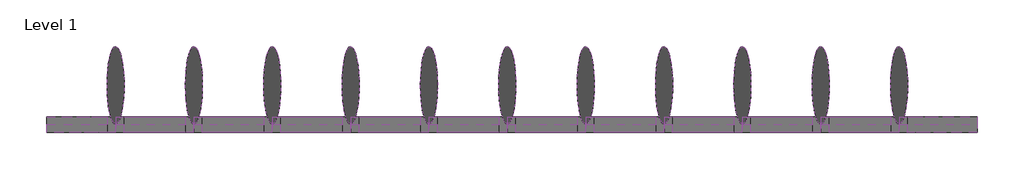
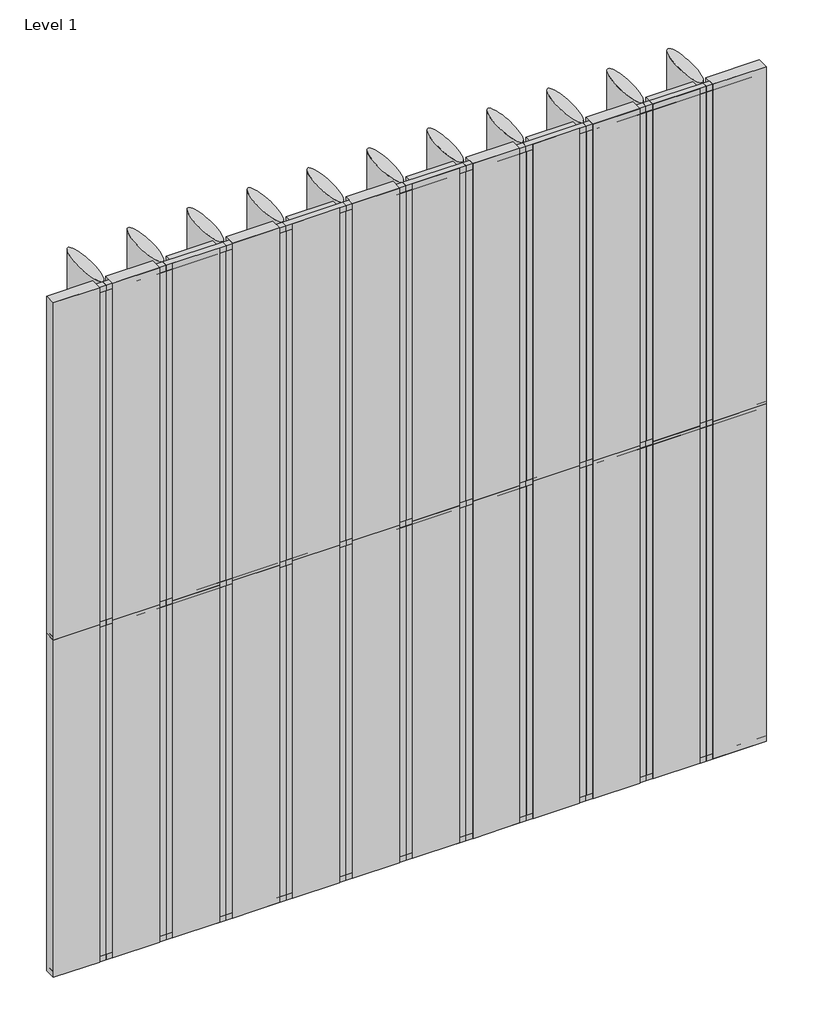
# One storey: 58 members, 48 plates.
"""IFC4 building model written with IfcOpenShell, lengths in millimetres."""

from ifc_helpers import new_model, si_unit, origin, place, context, project, spatial, transform, mapped, element, save
from components import rectangular_mullion_4d54ce13, rectangular_mullion_fc1c4b0a, rectangular_mullion_a2429558, rectangular_mullion_4e96f492, rectangular_mullion_058744f8, rectangular_mullion_f7ae43f3, rectangular_mullion_936fac8d, empty_system_panel_empty_f6668541, empty_system_panel_empty_c7db59ba, empty_system_panel_empty_c3984c60, empty_system_panel_empty_709fa1db, empty_system_panel_empty_4085ea94

model = new_model("IFC4")

# Units and contexts
model_context = context("Model", 3, world=origin())
ifc_project = project(units=[si_unit("LENGTHUNIT", "METRE", prefix="MILLI")], contexts=[model_context])

# Site, building, storey
site = spatial("IfcSite", under=ifc_project)
building = spatial("IfcBuilding", under=site)
storey = spatial("IfcBuildingStorey", under=building, Name="Level 1", Elevation=0.0)

# Members
placement = place(None, origin())
rectangular_mullion_shape = rectangular_mullion_4d54ce13(model_context)
element("IfcMember", 1, ObjectType="Rectangular Mullion : RSen_21_CWM_support profile 50x50 - left_gen_duco projects", at=placement, inside=storey, context=model_context, shape_type="MappedRepresentation", body=[
    mapped(rectangular_mullion_shape, transform((0.0, 3000.0, 6000.0), x_axis=(0.0, 0.0, 1.0), y_axis=(0.0, 1.0, 0.0), z_axis=(-1.0, 0.0, 0.0))),
])
rectangular_mullion_2_shape = rectangular_mullion_fc1c4b0a(model_context)
element("IfcMember", 2, ObjectType="Rectangular Mullion : RSen_21_CWM_support profile 50x50 - right_gen_duco projects", at=placement, inside=storey, context=model_context, shape_type="MappedRepresentation", body=[
    mapped(rectangular_mullion_2_shape, transform((6000.0, 3000.0, 0.0), x_axis=(0.0, 0.0, -1.0), y_axis=(0.0, 1.0, 0.0), z_axis=(1.0, 0.0, 0.0))),
])
rectangular_mullion_3_shape = rectangular_mullion_a2429558(model_context)
element("IfcMember", 3, ObjectType="Rectangular Mullion : RSen_21_CWM_support profile 50x50 - left_gen_duco projects", at=placement, inside=storey, context=model_context, shape_type="MappedRepresentation", body=[
    mapped(rectangular_mullion_3_shape, transform((5495.0, 3000.0, 6000.0), x_axis=(0.0, 0.0, 1.0), y_axis=(0.0, 1.0, 0.0), z_axis=(-1.0, 0.0, 0.0))),
])
element("IfcMember", 4, ObjectType="Rectangular Mullion : RSen_21_CWM_support profile 50x50 - left_gen_duco projects", at=placement, inside=storey, context=model_context, shape_type="MappedRepresentation", body=[
    mapped(rectangular_mullion_3_shape, transform((4990.0, 3000.0, 6000.0), x_axis=(0.0, 0.0, 1.0), y_axis=(0.0, 1.0, 0.0), z_axis=(-1.0, 0.0, 0.0))),
])
element("IfcMember", 5, ObjectType="Rectangular Mullion : RSen_21_CWM_support profile 50x50 - left_gen_duco projects", at=placement, inside=storey, context=model_context, shape_type="MappedRepresentation", body=[
    mapped(rectangular_mullion_3_shape, transform((4485.0, 3000.0, 6000.0), x_axis=(0.0, 0.0, 1.0), y_axis=(0.0, 1.0, 0.0), z_axis=(-1.0, 0.0, 0.0))),
])
element("IfcMember", 6, ObjectType="Rectangular Mullion : RSen_21_CWM_support profile 50x50 - left_gen_duco projects", at=placement, inside=storey, context=model_context, shape_type="MappedRepresentation", body=[
    mapped(rectangular_mullion_3_shape, transform((3980.0, 3000.0, 6000.0), x_axis=(0.0, 0.0, 1.0), y_axis=(0.0, 1.0, 0.0), z_axis=(-1.0, 0.0, 0.0))),
])
element("IfcMember", 7, ObjectType="Rectangular Mullion : RSen_21_CWM_support profile 50x50 - left_gen_duco projects", at=placement, inside=storey, context=model_context, shape_type="MappedRepresentation", body=[
    mapped(rectangular_mullion_3_shape, transform((3475.0, 3000.0, 6000.0), x_axis=(0.0, 0.0, 1.0), y_axis=(0.0, 1.0, 0.0), z_axis=(-1.0, 0.0, 0.0))),
])
element("IfcMember", 8, ObjectType="Rectangular Mullion : RSen_21_CWM_support profile 50x50 - left_gen_duco projects", at=placement, inside=storey, context=model_context, shape_type="MappedRepresentation", body=[
    mapped(rectangular_mullion_3_shape, transform((2970.0, 3000.0, 6000.0), x_axis=(0.0, 0.0, 1.0), y_axis=(0.0, 1.0, 0.0), z_axis=(-1.0, 0.0, 0.0))),
])
element("IfcMember", 9, ObjectType="Rectangular Mullion : RSen_21_CWM_support profile 50x50 - left_gen_duco projects", at=placement, inside=storey, context=model_context, shape_type="MappedRepresentation", body=[
    mapped(rectangular_mullion_3_shape, transform((2465.0, 3000.0, 6000.0), x_axis=(0.0, 0.0, 1.0), y_axis=(0.0, 1.0, 0.0), z_axis=(-1.0, 0.0, 0.0))),
])
element("IfcMember", 10, ObjectType="Rectangular Mullion : RSen_21_CWM_support profile 50x50 - left_gen_duco projects", at=placement, inside=storey, context=model_context, shape_type="MappedRepresentation", body=[
    mapped(rectangular_mullion_3_shape, transform((1960.0, 3000.0, 6000.0), x_axis=(0.0, 0.0, 1.0), y_axis=(0.0, 1.0, 0.0), z_axis=(-1.0, 0.0, 0.0))),
])
element("IfcMember", 11, ObjectType="Rectangular Mullion : RSen_21_CWM_support profile 50x50 - left_gen_duco projects", at=placement, inside=storey, context=model_context, shape_type="MappedRepresentation", body=[
    mapped(rectangular_mullion_3_shape, transform((1455.0, 3000.0, 6000.0), x_axis=(0.0, 0.0, 1.0), y_axis=(0.0, 1.0, 0.0), z_axis=(-1.0, 0.0, 0.0))),
])
element("IfcMember", 12, ObjectType="Rectangular Mullion : RSen_21_CWM_support profile 50x50 - left_gen_duco projects", at=placement, inside=storey, context=model_context, shape_type="MappedRepresentation", body=[
    mapped(rectangular_mullion_3_shape, transform((950.0, 3000.0, 6000.0), x_axis=(0.0, 0.0, 1.0), y_axis=(0.0, 1.0, 0.0), z_axis=(-1.0, 0.0, 0.0))),
])
element("IfcMember", 13, ObjectType="Rectangular Mullion : RSen_21_CWM_support profile 50x50 - left_gen_duco projects", at=placement, inside=storey, context=model_context, shape_type="MappedRepresentation", body=[
    mapped(rectangular_mullion_3_shape, transform((445.0, 3000.0, 6000.0), x_axis=(0.0, 0.0, 1.0), y_axis=(0.0, 1.0, 0.0), z_axis=(-1.0, 0.0, 0.0))),
])
element("IfcMember", 14, ObjectType="Rectangular Mullion : RSen_21_CWM_support profile 50x50 - right_gen_duco projects", at=placement, inside=storey, context=model_context, shape_type="MappedRepresentation", body=[
    mapped(rectangular_mullion_2_shape, transform((5495.0, 3000.0, 0.0), x_axis=(0.0, 0.0, -1.0), y_axis=(0.0, 1.0, 0.0), z_axis=(1.0, 0.0, 0.0))),
])
element("IfcMember", 15, ObjectType="Rectangular Mullion : RSen_21_CWM_support profile 50x50 - right_gen_duco projects", at=placement, inside=storey, context=model_context, shape_type="MappedRepresentation", body=[
    mapped(rectangular_mullion_2_shape, transform((4990.0, 3000.0, 0.0), x_axis=(0.0, 0.0, -1.0), y_axis=(0.0, 1.0, 0.0), z_axis=(1.0, 0.0, 0.0))),
])
element("IfcMember", 16, ObjectType="Rectangular Mullion : RSen_21_CWM_support profile 50x50 - right_gen_duco projects", at=placement, inside=storey, context=model_context, shape_type="MappedRepresentation", body=[
    mapped(rectangular_mullion_2_shape, transform((4485.0, 3000.0, 0.0), x_axis=(0.0, 0.0, -1.0), y_axis=(0.0, 1.0, 0.0), z_axis=(1.0, 0.0, 0.0))),
])
element("IfcMember", 17, ObjectType="Rectangular Mullion : RSen_21_CWM_support profile 50x50 - right_gen_duco projects", at=placement, inside=storey, context=model_context, shape_type="MappedRepresentation", body=[
    mapped(rectangular_mullion_2_shape, transform((3980.0, 3000.0, 0.0), x_axis=(0.0, 0.0, -1.0), y_axis=(0.0, 1.0, 0.0), z_axis=(1.0, 0.0, 0.0))),
])
element("IfcMember", 18, ObjectType="Rectangular Mullion : RSen_21_CWM_support profile 50x50 - right_gen_duco projects", at=placement, inside=storey, context=model_context, shape_type="MappedRepresentation", body=[
    mapped(rectangular_mullion_2_shape, transform((3475.0, 3000.0, 0.0), x_axis=(0.0, 0.0, -1.0), y_axis=(0.0, 1.0, 0.0), z_axis=(1.0, 0.0, 0.0))),
])
element("IfcMember", 19, ObjectType="Rectangular Mullion : RSen_21_CWM_support profile 50x50 - right_gen_duco projects", at=placement, inside=storey, context=model_context, shape_type="MappedRepresentation", body=[
    mapped(rectangular_mullion_2_shape, transform((2970.0, 3000.0, 0.0), x_axis=(0.0, 0.0, -1.0), y_axis=(0.0, 1.0, 0.0), z_axis=(1.0, 0.0, 0.0))),
])
element("IfcMember", 20, ObjectType="Rectangular Mullion : RSen_21_CWM_support profile 50x50 - right_gen_duco projects", at=placement, inside=storey, context=model_context, shape_type="MappedRepresentation", body=[
    mapped(rectangular_mullion_2_shape, transform((2465.0, 3000.0, 0.0), x_axis=(0.0, 0.0, -1.0), y_axis=(0.0, 1.0, 0.0), z_axis=(1.0, 0.0, 0.0))),
])
element("IfcMember", 21, ObjectType="Rectangular Mullion : RSen_21_CWM_support profile 50x50 - right_gen_duco projects", at=placement, inside=storey, context=model_context, shape_type="MappedRepresentation", body=[
    mapped(rectangular_mullion_2_shape, transform((1960.0, 3000.0, 0.0), x_axis=(0.0, 0.0, -1.0), y_axis=(0.0, 1.0, 0.0), z_axis=(1.0, 0.0, 0.0))),
])
element("IfcMember", 22, ObjectType="Rectangular Mullion : RSen_21_CWM_support profile 50x50 - right_gen_duco projects", at=placement, inside=storey, context=model_context, shape_type="MappedRepresentation", body=[
    mapped(rectangular_mullion_2_shape, transform((1455.0, 3000.0, 0.0), x_axis=(0.0, 0.0, -1.0), y_axis=(0.0, 1.0, 0.0), z_axis=(1.0, 0.0, 0.0))),
])
element("IfcMember", 23, ObjectType="Rectangular Mullion : RSen_21_CWM_support profile 50x50 - right_gen_duco projects", at=placement, inside=storey, context=model_context, shape_type="MappedRepresentation", body=[
    mapped(rectangular_mullion_2_shape, transform((950.0, 3000.0, 0.0), x_axis=(0.0, 0.0, -1.0), y_axis=(0.0, 1.0, 0.0), z_axis=(1.0, 0.0, 0.0))),
])
rectangular_mullion_4_shape = rectangular_mullion_4e96f492(model_context)
element("IfcMember", 24, ObjectType="Rectangular Mullion : RSen_21_CWM_support profile 50x50 - right_gen_duco projects", at=placement, inside=storey, context=model_context, shape_type="MappedRepresentation", body=[
    mapped(rectangular_mullion_4_shape, transform((445.0, 3000.0, 0.0), x_axis=(0.0, 0.0, -1.0), y_axis=(0.0, 1.0, 0.0), z_axis=(1.0, 0.0, 0.0))),
])
rectangular_mullion_5_shape = rectangular_mullion_058744f8(model_context)
element("IfcMember", 25, ObjectType="Rectangular Mullion : RSen_21_CWM_support profile 50x50_gen_duco projects", at=placement, inside=storey, context=model_context, shape_type="MappedRepresentation", body=[
    mapped(rectangular_mullion_5_shape, transform((5495.0, 3000.0, 3000.0), x_axis=(0.0, 0.0, 1.0), y_axis=(0.0, 1.0, 0.0), z_axis=(-1.0, 0.0, 0.0))),
])
element("IfcMember", 26, ObjectType="Rectangular Mullion : RSen_21_CWM_support profile 50x50_gen_duco projects", at=placement, inside=storey, context=model_context, shape_type="MappedRepresentation", body=[
    mapped(rectangular_mullion_5_shape, transform((4990.0, 3000.0, 3000.0), x_axis=(0.0, 0.0, 1.0), y_axis=(0.0, 1.0, 0.0), z_axis=(-1.0, 0.0, 0.0))),
])
element("IfcMember", 27, ObjectType="Rectangular Mullion : RSen_21_CWM_support profile 50x50_gen_duco projects", at=placement, inside=storey, context=model_context, shape_type="MappedRepresentation", body=[
    mapped(rectangular_mullion_5_shape, transform((4485.0, 3000.0, 3000.0), x_axis=(0.0, 0.0, 1.0), y_axis=(0.0, 1.0, 0.0), z_axis=(-1.0, 0.0, 0.0))),
])
element("IfcMember", 28, ObjectType="Rectangular Mullion : RSen_21_CWM_support profile 50x50_gen_duco projects", at=placement, inside=storey, context=model_context, shape_type="MappedRepresentation", body=[
    mapped(rectangular_mullion_5_shape, transform((3980.0, 3000.0, 3000.0), x_axis=(0.0, 0.0, 1.0), y_axis=(0.0, 1.0, 0.0), z_axis=(-1.0, 0.0, 0.0))),
])
element("IfcMember", 29, ObjectType="Rectangular Mullion : RSen_21_CWM_support profile 50x50_gen_duco projects", at=placement, inside=storey, context=model_context, shape_type="MappedRepresentation", body=[
    mapped(rectangular_mullion_5_shape, transform((3475.0, 3000.0, 3000.0), x_axis=(0.0, 0.0, 1.0), y_axis=(0.0, 1.0, 0.0), z_axis=(-1.0, 0.0, 0.0))),
])
element("IfcMember", 30, ObjectType="Rectangular Mullion : RSen_21_CWM_support profile 50x50_gen_duco projects", at=placement, inside=storey, context=model_context, shape_type="MappedRepresentation", body=[
    mapped(rectangular_mullion_5_shape, transform((2970.0, 3000.0, 3000.0), x_axis=(0.0, 0.0, 1.0), y_axis=(0.0, 1.0, 0.0), z_axis=(-1.0, 0.0, 0.0))),
])
element("IfcMember", 31, ObjectType="Rectangular Mullion : RSen_21_CWM_support profile 50x50_gen_duco projects", at=placement, inside=storey, context=model_context, shape_type="MappedRepresentation", body=[
    mapped(rectangular_mullion_5_shape, transform((2465.0, 3000.0, 3000.0), x_axis=(0.0, 0.0, 1.0), y_axis=(0.0, 1.0, 0.0), z_axis=(-1.0, 0.0, 0.0))),
])
element("IfcMember", 32, ObjectType="Rectangular Mullion : RSen_21_CWM_support profile 50x50_gen_duco projects", at=placement, inside=storey, context=model_context, shape_type="MappedRepresentation", body=[
    mapped(rectangular_mullion_5_shape, transform((1960.0, 3000.0, 3000.0), x_axis=(0.0, 0.0, 1.0), y_axis=(0.0, 1.0, 0.0), z_axis=(-1.0, 0.0, 0.0))),
])
element("IfcMember", 33, ObjectType="Rectangular Mullion : RSen_21_CWM_support profile 50x50_gen_duco projects", at=placement, inside=storey, context=model_context, shape_type="MappedRepresentation", body=[
    mapped(rectangular_mullion_5_shape, transform((1455.0, 3000.0, 3000.0), x_axis=(0.0, 0.0, 1.0), y_axis=(0.0, 1.0, 0.0), z_axis=(-1.0, 0.0, 0.0))),
])
element("IfcMember", 34, ObjectType="Rectangular Mullion : RSen_21_CWM_support profile 50x50_gen_duco projects", at=placement, inside=storey, context=model_context, shape_type="MappedRepresentation", body=[
    mapped(rectangular_mullion_5_shape, transform((950.0, 3000.0, 3000.0), x_axis=(0.0, 0.0, 1.0), y_axis=(0.0, 1.0, 0.0), z_axis=(-1.0, 0.0, 0.0))),
])
element("IfcMember", 35, ObjectType="Rectangular Mullion : RSen_21_CWM_support profile 50x50_gen_duco projects", at=placement, inside=storey, context=model_context, shape_type="MappedRepresentation", body=[
    mapped(rectangular_mullion_5_shape, transform((445.0, 3000.0, 3000.0), x_axis=(0.0, 0.0, 1.0), y_axis=(0.0, 1.0, 0.0), z_axis=(-1.0, 0.0, 0.0))),
])
rectangular_mullion_6_shape = rectangular_mullion_f7ae43f3(model_context)
element("IfcMember", 36, ObjectType="Rectangular Mullion : RSen_21_CWM_support profile 50x50_gen_duco projects", at=placement, inside=storey, context=model_context, shape_type="MappedRepresentation", body=[
    mapped(rectangular_mullion_6_shape, transform((0.0, 3000.0, 3000.0), x_axis=(0.0, 0.0, 1.0), y_axis=(0.0, 1.0, 0.0), z_axis=(-1.0, 0.0, 0.0))),
])
rectangular_mullion_7_shape = rectangular_mullion_936fac8d(model_context)
element("IfcMember", 37, ObjectType="Rectangular Mullion : RSen_21_CWM_blade - wing 500 - 0° perforated_gen_duco projects", at=placement, inside=storey, context=model_context, shape_type="MappedRepresentation", body=[
    mapped(rectangular_mullion_7_shape, transform((5495.0, 3000.0, 0.0), x_axis=(-1.0, 0.0, 0.0), y_axis=(0.0, 1.0, 0.0), z_axis=(0.0, 0.0, -1.0))),
])
element("IfcMember", 38, ObjectType="Rectangular Mullion : RSen_21_CWM_blade - wing 500 - 0° perforated_gen_duco projects", at=placement, inside=storey, context=model_context, shape_type="MappedRepresentation", body=[
    mapped(rectangular_mullion_7_shape, transform((4990.0, 3000.0, 0.0), x_axis=(-1.0, 0.0, 0.0), y_axis=(0.0, 1.0, 0.0), z_axis=(0.0, 0.0, -1.0))),
])
element("IfcMember", 39, ObjectType="Rectangular Mullion : RSen_21_CWM_blade - wing 500 - 0° perforated_gen_duco projects", at=placement, inside=storey, context=model_context, shape_type="MappedRepresentation", body=[
    mapped(rectangular_mullion_7_shape, transform((4485.0, 3000.0, 0.0), x_axis=(-1.0, 0.0, 0.0), y_axis=(0.0, 1.0, 0.0), z_axis=(0.0, 0.0, -1.0))),
])
element("IfcMember", 40, ObjectType="Rectangular Mullion : RSen_21_CWM_blade - wing 500 - 0° perforated_gen_duco projects", at=placement, inside=storey, context=model_context, shape_type="MappedRepresentation", body=[
    mapped(rectangular_mullion_7_shape, transform((3980.0, 3000.0, 0.0), x_axis=(-1.0, 0.0, 0.0), y_axis=(0.0, 1.0, 0.0), z_axis=(0.0, 0.0, -1.0))),
])
element("IfcMember", 41, ObjectType="Rectangular Mullion : RSen_21_CWM_blade - wing 500 - 0° perforated_gen_duco projects", at=placement, inside=storey, context=model_context, shape_type="MappedRepresentation", body=[
    mapped(rectangular_mullion_7_shape, transform((3475.0, 3000.0, 0.0), x_axis=(-1.0, 0.0, 0.0), y_axis=(0.0, 1.0, 0.0), z_axis=(0.0, 0.0, -1.0))),
])
element("IfcMember", 42, ObjectType="Rectangular Mullion : RSen_21_CWM_blade - wing 500 - 0° perforated_gen_duco projects", at=placement, inside=storey, context=model_context, shape_type="MappedRepresentation", body=[
    mapped(rectangular_mullion_7_shape, transform((2970.0, 3000.0, 0.0), x_axis=(-1.0, 0.0, 0.0), y_axis=(0.0, 1.0, 0.0), z_axis=(0.0, 0.0, -1.0))),
])
element("IfcMember", 43, ObjectType="Rectangular Mullion : RSen_21_CWM_blade - wing 500 - 0° perforated_gen_duco projects", at=placement, inside=storey, context=model_context, shape_type="MappedRepresentation", body=[
    mapped(rectangular_mullion_7_shape, transform((2465.0, 3000.0, 0.0), x_axis=(-1.0, 0.0, 0.0), y_axis=(0.0, 1.0, 0.0), z_axis=(0.0, 0.0, -1.0))),
])
element("IfcMember", 44, ObjectType="Rectangular Mullion : RSen_21_CWM_blade - wing 500 - 0° perforated_gen_duco projects", at=placement, inside=storey, context=model_context, shape_type="MappedRepresentation", body=[
    mapped(rectangular_mullion_7_shape, transform((1960.0, 3000.0, 0.0), x_axis=(-1.0, 0.0, 0.0), y_axis=(0.0, 1.0, 0.0), z_axis=(0.0, 0.0, -1.0))),
])
element("IfcMember", 45, ObjectType="Rectangular Mullion : RSen_21_CWM_blade - wing 500 - 0° perforated_gen_duco projects", at=placement, inside=storey, context=model_context, shape_type="MappedRepresentation", body=[
    mapped(rectangular_mullion_7_shape, transform((1455.0, 3000.0, 0.0), x_axis=(-1.0, 0.0, 0.0), y_axis=(0.0, 1.0, 0.0), z_axis=(0.0, 0.0, -1.0))),
])
element("IfcMember", 46, ObjectType="Rectangular Mullion : RSen_21_CWM_blade - wing 500 - 0° perforated_gen_duco projects", at=placement, inside=storey, context=model_context, shape_type="MappedRepresentation", body=[
    mapped(rectangular_mullion_7_shape, transform((950.0, 3000.0, 0.0), x_axis=(-1.0, 0.0, 0.0), y_axis=(0.0, 1.0, 0.0), z_axis=(0.0, 0.0, -1.0))),
])
element("IfcMember", 47, ObjectType="Rectangular Mullion : RSen_21_CWM_blade - wing 500 - 0° perforated_gen_duco projects", at=placement, inside=storey, context=model_context, shape_type="MappedRepresentation", body=[
    mapped(rectangular_mullion_7_shape, transform((445.0, 3000.0, 0.0), x_axis=(-1.0, 0.0, 0.0), y_axis=(0.0, 1.0, 0.0), z_axis=(0.0, 0.0, -1.0))),
])
element("IfcMember", 48, ObjectType="Rectangular Mullion : RSen_21_CWM_blade - wing 500 - 0° perforated_gen_duco projects", at=placement, inside=storey, context=model_context, shape_type="MappedRepresentation", body=[
    mapped(rectangular_mullion_7_shape, transform((5495.0, 3000.0, 3000.0), x_axis=(-1.0, 0.0, 0.0), y_axis=(0.0, 1.0, 0.0), z_axis=(0.0, 0.0, -1.0))),
])
element("IfcMember", 49, ObjectType="Rectangular Mullion : RSen_21_CWM_blade - wing 500 - 0° perforated_gen_duco projects", at=placement, inside=storey, context=model_context, shape_type="MappedRepresentation", body=[
    mapped(rectangular_mullion_7_shape, transform((4990.0, 3000.0, 3000.0), x_axis=(-1.0, 0.0, 0.0), y_axis=(0.0, 1.0, 0.0), z_axis=(0.0, 0.0, -1.0))),
])
element("IfcMember", 50, ObjectType="Rectangular Mullion : RSen_21_CWM_blade - wing 500 - 0° perforated_gen_duco projects", at=placement, inside=storey, context=model_context, shape_type="MappedRepresentation", body=[
    mapped(rectangular_mullion_7_shape, transform((4485.0, 3000.0, 3000.0), x_axis=(-1.0, 0.0, 0.0), y_axis=(0.0, 1.0, 0.0), z_axis=(0.0, 0.0, -1.0))),
])
element("IfcMember", 51, ObjectType="Rectangular Mullion : RSen_21_CWM_blade - wing 500 - 0° perforated_gen_duco projects", at=placement, inside=storey, context=model_context, shape_type="MappedRepresentation", body=[
    mapped(rectangular_mullion_7_shape, transform((3980.0, 3000.0, 3000.0), x_axis=(-1.0, 0.0, 0.0), y_axis=(0.0, 1.0, 0.0), z_axis=(0.0, 0.0, -1.0))),
])
element("IfcMember", 52, ObjectType="Rectangular Mullion : RSen_21_CWM_blade - wing 500 - 0° perforated_gen_duco projects", at=placement, inside=storey, context=model_context, shape_type="MappedRepresentation", body=[
    mapped(rectangular_mullion_7_shape, transform((3475.0, 3000.0, 3000.0), x_axis=(-1.0, 0.0, 0.0), y_axis=(0.0, 1.0, 0.0), z_axis=(0.0, 0.0, -1.0))),
])
element("IfcMember", 53, ObjectType="Rectangular Mullion : RSen_21_CWM_blade - wing 500 - 0° perforated_gen_duco projects", at=placement, inside=storey, context=model_context, shape_type="MappedRepresentation", body=[
    mapped(rectangular_mullion_7_shape, transform((2970.0, 3000.0, 3000.0), x_axis=(-1.0, 0.0, 0.0), y_axis=(0.0, 1.0, 0.0), z_axis=(0.0, 0.0, -1.0))),
])
element("IfcMember", 54, ObjectType="Rectangular Mullion : RSen_21_CWM_blade - wing 500 - 0° perforated_gen_duco projects", at=placement, inside=storey, context=model_context, shape_type="MappedRepresentation", body=[
    mapped(rectangular_mullion_7_shape, transform((2465.0, 3000.0, 3000.0), x_axis=(-1.0, 0.0, 0.0), y_axis=(0.0, 1.0, 0.0), z_axis=(0.0, 0.0, -1.0))),
])
element("IfcMember", 55, ObjectType="Rectangular Mullion : RSen_21_CWM_blade - wing 500 - 0° perforated_gen_duco projects", at=placement, inside=storey, context=model_context, shape_type="MappedRepresentation", body=[
    mapped(rectangular_mullion_7_shape, transform((1960.0, 3000.0, 3000.0), x_axis=(-1.0, 0.0, 0.0), y_axis=(0.0, 1.0, 0.0), z_axis=(0.0, 0.0, -1.0))),
])
element("IfcMember", 56, ObjectType="Rectangular Mullion : RSen_21_CWM_blade - wing 500 - 0° perforated_gen_duco projects", at=placement, inside=storey, context=model_context, shape_type="MappedRepresentation", body=[
    mapped(rectangular_mullion_7_shape, transform((1455.0, 3000.0, 3000.0), x_axis=(-1.0, 0.0, 0.0), y_axis=(0.0, 1.0, 0.0), z_axis=(0.0, 0.0, -1.0))),
])
element("IfcMember", 57, ObjectType="Rectangular Mullion : RSen_21_CWM_blade - wing 500 - 0° perforated_gen_duco projects", at=placement, inside=storey, context=model_context, shape_type="MappedRepresentation", body=[
    mapped(rectangular_mullion_7_shape, transform((950.0, 3000.0, 3000.0), x_axis=(-1.0, 0.0, 0.0), y_axis=(0.0, 1.0, 0.0), z_axis=(0.0, 0.0, -1.0))),
])
element("IfcMember", 58, ObjectType="Rectangular Mullion : RSen_21_CWM_blade - wing 500 - 0° perforated_gen_duco projects", at=placement, inside=storey, context=model_context, shape_type="MappedRepresentation", body=[
    mapped(rectangular_mullion_7_shape, transform((445.0, 3000.0, 3000.0), x_axis=(-1.0, 0.0, 0.0), y_axis=(0.0, 1.0, 0.0), z_axis=(0.0, 0.0, -1.0))),
])

# Plates
empty_system_panel_empty_shape = empty_system_panel_empty_f6668541(model_context)
element("IfcPlate", 59, ObjectType="Empty System Panel : Empty", at=placement, inside=storey, context=model_context, shape_type="MappedRepresentation", body=[
    mapped(empty_system_panel_empty_shape, transform((5747.5, 3000.0, 50.0), x_axis=(-1.0, 0.0, 0.0), y_axis=(0.0, -1.0, 0.0), z_axis=(0.0, 0.0, 1.0))),
])
element("IfcPlate", 60, ObjectType="Empty System Panel : Empty", at=placement, inside=storey, context=model_context, shape_type="MappedRepresentation", body=[
    mapped(empty_system_panel_empty_shape, transform((5242.5, 3000.0, 50.0), x_axis=(-1.0, 0.0, 0.0), y_axis=(0.0, -1.0, 0.0), z_axis=(0.0, 0.0, 1.0))),
])
element("IfcPlate", 61, ObjectType="Empty System Panel : Empty", at=placement, inside=storey, context=model_context, shape_type="MappedRepresentation", body=[
    mapped(empty_system_panel_empty_shape, transform((4737.5, 3000.0, 50.0), x_axis=(-1.0, 0.0, 0.0), y_axis=(0.0, -1.0, 0.0), z_axis=(0.0, 0.0, 1.0))),
])
element("IfcPlate", 62, ObjectType="Empty System Panel : Empty", at=placement, inside=storey, context=model_context, shape_type="MappedRepresentation", body=[
    mapped(empty_system_panel_empty_shape, transform((4232.5, 3000.0, 50.0), x_axis=(-1.0, 0.0, 0.0), y_axis=(0.0, -1.0, 0.0), z_axis=(0.0, 0.0, 1.0))),
])
element("IfcPlate", 63, ObjectType="Empty System Panel : Empty", at=placement, inside=storey, context=model_context, shape_type="MappedRepresentation", body=[
    mapped(empty_system_panel_empty_shape, transform((3727.5, 3000.0, 50.0), x_axis=(-1.0, 0.0, 0.0), y_axis=(0.0, -1.0, 0.0), z_axis=(0.0, 0.0, 1.0))),
])
element("IfcPlate", 64, ObjectType="Empty System Panel : Empty", at=placement, inside=storey, context=model_context, shape_type="MappedRepresentation", body=[
    mapped(empty_system_panel_empty_shape, transform((3222.5, 3000.0, 50.0), x_axis=(-1.0, 0.0, 0.0), y_axis=(0.0, -1.0, 0.0), z_axis=(0.0, 0.0, 1.0))),
])
element("IfcPlate", 65, ObjectType="Empty System Panel : Empty", at=placement, inside=storey, context=model_context, shape_type="MappedRepresentation", body=[
    mapped(empty_system_panel_empty_shape, transform((2717.5, 3000.0, 50.0), x_axis=(-1.0, 0.0, 0.0), y_axis=(0.0, -1.0, 0.0), z_axis=(0.0, 0.0, 1.0))),
])
element("IfcPlate", 66, ObjectType="Empty System Panel : Empty", at=placement, inside=storey, context=model_context, shape_type="MappedRepresentation", body=[
    mapped(empty_system_panel_empty_shape, transform((2212.5, 3000.0, 50.0), x_axis=(-1.0, 0.0, 0.0), y_axis=(0.0, -1.0, 0.0), z_axis=(0.0, 0.0, 1.0))),
])
element("IfcPlate", 67, ObjectType="Empty System Panel : Empty", at=placement, inside=storey, context=model_context, shape_type="MappedRepresentation", body=[
    mapped(empty_system_panel_empty_shape, transform((1707.5, 3000.0, 50.0), x_axis=(-1.0, 0.0, 0.0), y_axis=(0.0, -1.0, 0.0), z_axis=(0.0, 0.0, 1.0))),
])
element("IfcPlate", 68, ObjectType="Empty System Panel : Empty", at=placement, inside=storey, context=model_context, shape_type="MappedRepresentation", body=[
    mapped(empty_system_panel_empty_shape, transform((1202.5, 3000.0, 50.0), x_axis=(-1.0, 0.0, 0.0), y_axis=(0.0, -1.0, 0.0), z_axis=(0.0, 0.0, 1.0))),
])
element("IfcPlate", 69, ObjectType="Empty System Panel : Empty", at=placement, inside=storey, context=model_context, shape_type="MappedRepresentation", body=[
    mapped(empty_system_panel_empty_shape, transform((697.5, 3000.0, 50.0), x_axis=(-1.0, 0.0, 0.0), y_axis=(0.0, -1.0, 0.0), z_axis=(0.0, 0.0, 1.0))),
])
element("IfcPlate", 70, ObjectType="Empty System Panel : Empty", at=placement, inside=storey, context=model_context, shape_type="MappedRepresentation", body=[
    mapped(empty_system_panel_empty_shape, transform((5747.5, 3000.0, 3025.0), x_axis=(-1.0, 0.0, 0.0), y_axis=(0.0, -1.0, 0.0), z_axis=(0.0, 0.0, 1.0))),
])
element("IfcPlate", 71, ObjectType="Empty System Panel : Empty", at=placement, inside=storey, context=model_context, shape_type="MappedRepresentation", body=[
    mapped(empty_system_panel_empty_shape, transform((5242.5, 3000.0, 3025.0), x_axis=(-1.0, 0.0, 0.0), y_axis=(0.0, -1.0, 0.0), z_axis=(0.0, 0.0, 1.0))),
])
element("IfcPlate", 72, ObjectType="Empty System Panel : Empty", at=placement, inside=storey, context=model_context, shape_type="MappedRepresentation", body=[
    mapped(empty_system_panel_empty_shape, transform((4737.5, 3000.0, 3025.0), x_axis=(-1.0, 0.0, 0.0), y_axis=(0.0, -1.0, 0.0), z_axis=(0.0, 0.0, 1.0))),
])
element("IfcPlate", 73, ObjectType="Empty System Panel : Empty", at=placement, inside=storey, context=model_context, shape_type="MappedRepresentation", body=[
    mapped(empty_system_panel_empty_shape, transform((4232.5, 3000.0, 3025.0), x_axis=(-1.0, 0.0, 0.0), y_axis=(0.0, -1.0, 0.0), z_axis=(0.0, 0.0, 1.0))),
])
element("IfcPlate", 74, ObjectType="Empty System Panel : Empty", at=placement, inside=storey, context=model_context, shape_type="MappedRepresentation", body=[
    mapped(empty_system_panel_empty_shape, transform((3727.5, 3000.0, 3025.0), x_axis=(-1.0, 0.0, 0.0), y_axis=(0.0, -1.0, 0.0), z_axis=(0.0, 0.0, 1.0))),
])
element("IfcPlate", 75, ObjectType="Empty System Panel : Empty", at=placement, inside=storey, context=model_context, shape_type="MappedRepresentation", body=[
    mapped(empty_system_panel_empty_shape, transform((3222.5, 3000.0, 3025.0), x_axis=(-1.0, 0.0, 0.0), y_axis=(0.0, -1.0, 0.0), z_axis=(0.0, 0.0, 1.0))),
])
element("IfcPlate", 76, ObjectType="Empty System Panel : Empty", at=placement, inside=storey, context=model_context, shape_type="MappedRepresentation", body=[
    mapped(empty_system_panel_empty_shape, transform((2717.5, 3000.0, 3025.0), x_axis=(-1.0, 0.0, 0.0), y_axis=(0.0, -1.0, 0.0), z_axis=(0.0, 0.0, 1.0))),
])
element("IfcPlate", 77, ObjectType="Empty System Panel : Empty", at=placement, inside=storey, context=model_context, shape_type="MappedRepresentation", body=[
    mapped(empty_system_panel_empty_shape, transform((2212.5, 3000.0, 3025.0), x_axis=(-1.0, 0.0, 0.0), y_axis=(0.0, -1.0, 0.0), z_axis=(0.0, 0.0, 1.0))),
])
element("IfcPlate", 78, ObjectType="Empty System Panel : Empty", at=placement, inside=storey, context=model_context, shape_type="MappedRepresentation", body=[
    mapped(empty_system_panel_empty_shape, transform((1707.5, 3000.0, 3025.0), x_axis=(-1.0, 0.0, 0.0), y_axis=(0.0, -1.0, 0.0), z_axis=(0.0, 0.0, 1.0))),
])
element("IfcPlate", 79, ObjectType="Empty System Panel : Empty", at=placement, inside=storey, context=model_context, shape_type="MappedRepresentation", body=[
    mapped(empty_system_panel_empty_shape, transform((1202.5, 3000.0, 3025.0), x_axis=(-1.0, 0.0, 0.0), y_axis=(0.0, -1.0, 0.0), z_axis=(0.0, 0.0, 1.0))),
])
element("IfcPlate", 80, ObjectType="Empty System Panel : Empty", at=placement, inside=storey, context=model_context, shape_type="MappedRepresentation", body=[
    mapped(empty_system_panel_empty_shape, transform((697.5, 3000.0, 3025.0), x_axis=(-1.0, 0.0, 0.0), y_axis=(0.0, -1.0, 0.0), z_axis=(0.0, 0.0, 1.0))),
])
empty_system_panel_empty_2_shape = empty_system_panel_empty_c7db59ba(model_context)
element("IfcPlate", 81, ObjectType="Empty System Panel : Empty", at=placement, inside=storey, context=model_context, shape_type="MappedRepresentation", body=[
    mapped(empty_system_panel_empty_2_shape, transform((222.5, 3000.0, 50.0), x_axis=(-1.0, 0.0, 0.0), y_axis=(0.0, -1.0, 0.0), z_axis=(0.0, 0.0, 1.0))),
])
element("IfcPlate", 82, ObjectType="Empty System Panel : Empty", at=placement, inside=storey, context=model_context, shape_type="MappedRepresentation", body=[
    mapped(empty_system_panel_empty_2_shape, transform((222.5, 3000.0, 3025.0), x_axis=(-1.0, 0.0, 0.0), y_axis=(0.0, -1.0, 0.0), z_axis=(0.0, 0.0, 1.0))),
])
empty_system_panel_empty_3_shape = empty_system_panel_empty_c3984c60(model_context)
element("IfcPlate", 83, ObjectType="Empty System Panel : Empty", at=placement, inside=storey, context=model_context, shape_type="MappedRepresentation", body=[
    mapped(empty_system_panel_empty_3_shape, transform((5775.0, 3000.0, 0.0), x_axis=(-1.0, 0.0, 0.0), y_axis=(0.0, -1.0, 0.0), z_axis=(0.0, 0.0, 1.0))),
])
element("IfcPlate", 84, ObjectType="Empty System Panel : Empty", at=placement, inside=storey, context=model_context, shape_type="MappedRepresentation", body=[
    mapped(empty_system_panel_empty_3_shape, transform((5775.0, 3000.0, 3000.0), x_axis=(-1.0, 0.0, 0.0), y_axis=(0.0, -1.0, 0.0), z_axis=(0.0, 0.0, 1.0))),
])
empty_system_panel_empty_4_shape = empty_system_panel_empty_709fa1db(model_context)
element("IfcPlate", 85, ObjectType="Empty System Panel : Empty", at=placement, inside=storey, context=model_context, shape_type="MappedRepresentation", body=[
    mapped(empty_system_panel_empty_4_shape, transform((5242.5, 3000.0, 0.0), x_axis=(-1.0, 0.0, 0.0), y_axis=(0.0, -1.0, 0.0), z_axis=(0.0, 0.0, 1.0))),
])
element("IfcPlate", 86, ObjectType="Empty System Panel : Empty", at=placement, inside=storey, context=model_context, shape_type="MappedRepresentation", body=[
    mapped(empty_system_panel_empty_4_shape, transform((4737.5, 3000.0, 0.0), x_axis=(-1.0, 0.0, 0.0), y_axis=(0.0, -1.0, 0.0), z_axis=(0.0, 0.0, 1.0))),
])
element("IfcPlate", 87, ObjectType="Empty System Panel : Empty", at=placement, inside=storey, context=model_context, shape_type="MappedRepresentation", body=[
    mapped(empty_system_panel_empty_4_shape, transform((4232.5, 3000.0, 0.0), x_axis=(-1.0, 0.0, 0.0), y_axis=(0.0, -1.0, 0.0), z_axis=(0.0, 0.0, 1.0))),
])
element("IfcPlate", 88, ObjectType="Empty System Panel : Empty", at=placement, inside=storey, context=model_context, shape_type="MappedRepresentation", body=[
    mapped(empty_system_panel_empty_4_shape, transform((3727.5, 3000.0, 0.0), x_axis=(-1.0, 0.0, 0.0), y_axis=(0.0, -1.0, 0.0), z_axis=(0.0, 0.0, 1.0))),
])
element("IfcPlate", 89, ObjectType="Empty System Panel : Empty", at=placement, inside=storey, context=model_context, shape_type="MappedRepresentation", body=[
    mapped(empty_system_panel_empty_4_shape, transform((3222.5, 3000.0, 0.0), x_axis=(-1.0, 0.0, 0.0), y_axis=(0.0, -1.0, 0.0), z_axis=(0.0, 0.0, 1.0))),
])
element("IfcPlate", 90, ObjectType="Empty System Panel : Empty", at=placement, inside=storey, context=model_context, shape_type="MappedRepresentation", body=[
    mapped(empty_system_panel_empty_4_shape, transform((2717.5, 3000.0, 0.0), x_axis=(-1.0, 0.0, 0.0), y_axis=(0.0, -1.0, 0.0), z_axis=(0.0, 0.0, 1.0))),
])
element("IfcPlate", 91, ObjectType="Empty System Panel : Empty", at=placement, inside=storey, context=model_context, shape_type="MappedRepresentation", body=[
    mapped(empty_system_panel_empty_4_shape, transform((2212.5, 3000.0, 0.0), x_axis=(-1.0, 0.0, 0.0), y_axis=(0.0, -1.0, 0.0), z_axis=(0.0, 0.0, 1.0))),
])
element("IfcPlate", 92, ObjectType="Empty System Panel : Empty", at=placement, inside=storey, context=model_context, shape_type="MappedRepresentation", body=[
    mapped(empty_system_panel_empty_4_shape, transform((1707.5, 3000.0, 0.0), x_axis=(-1.0, 0.0, 0.0), y_axis=(0.0, -1.0, 0.0), z_axis=(0.0, 0.0, 1.0))),
])
element("IfcPlate", 93, ObjectType="Empty System Panel : Empty", at=placement, inside=storey, context=model_context, shape_type="MappedRepresentation", body=[
    mapped(empty_system_panel_empty_4_shape, transform((1202.5, 3000.0, 0.0), x_axis=(-1.0, 0.0, 0.0), y_axis=(0.0, -1.0, 0.0), z_axis=(0.0, 0.0, 1.0))),
])
element("IfcPlate", 94, ObjectType="Empty System Panel : Empty", at=placement, inside=storey, context=model_context, shape_type="MappedRepresentation", body=[
    mapped(empty_system_panel_empty_4_shape, transform((697.5, 3000.0, 0.0), x_axis=(-1.0, 0.0, 0.0), y_axis=(0.0, -1.0, 0.0), z_axis=(0.0, 0.0, 1.0))),
])
element("IfcPlate", 95, ObjectType="Empty System Panel : Empty", at=placement, inside=storey, context=model_context, shape_type="MappedRepresentation", body=[
    mapped(empty_system_panel_empty_4_shape, transform((5242.5, 3000.0, 3000.0), x_axis=(-1.0, 0.0, 0.0), y_axis=(0.0, -1.0, 0.0), z_axis=(0.0, 0.0, 1.0))),
])
element("IfcPlate", 96, ObjectType="Empty System Panel : Empty", at=placement, inside=storey, context=model_context, shape_type="MappedRepresentation", body=[
    mapped(empty_system_panel_empty_4_shape, transform((4737.5, 3000.0, 3000.0), x_axis=(-1.0, 0.0, 0.0), y_axis=(0.0, -1.0, 0.0), z_axis=(0.0, 0.0, 1.0))),
])
element("IfcPlate", 97, ObjectType="Empty System Panel : Empty", at=placement, inside=storey, context=model_context, shape_type="MappedRepresentation", body=[
    mapped(empty_system_panel_empty_4_shape, transform((4232.5, 3000.0, 3000.0), x_axis=(-1.0, 0.0, 0.0), y_axis=(0.0, -1.0, 0.0), z_axis=(0.0, 0.0, 1.0))),
])
element("IfcPlate", 98, ObjectType="Empty System Panel : Empty", at=placement, inside=storey, context=model_context, shape_type="MappedRepresentation", body=[
    mapped(empty_system_panel_empty_4_shape, transform((3727.5, 3000.0, 3000.0), x_axis=(-1.0, 0.0, 0.0), y_axis=(0.0, -1.0, 0.0), z_axis=(0.0, 0.0, 1.0))),
])
element("IfcPlate", 99, ObjectType="Empty System Panel : Empty", at=placement, inside=storey, context=model_context, shape_type="MappedRepresentation", body=[
    mapped(empty_system_panel_empty_4_shape, transform((3222.5, 3000.0, 3000.0), x_axis=(-1.0, 0.0, 0.0), y_axis=(0.0, -1.0, 0.0), z_axis=(0.0, 0.0, 1.0))),
])
element("IfcPlate", 100, ObjectType="Empty System Panel : Empty", at=placement, inside=storey, context=model_context, shape_type="MappedRepresentation", body=[
    mapped(empty_system_panel_empty_4_shape, transform((2717.5, 3000.0, 3000.0), x_axis=(-1.0, 0.0, 0.0), y_axis=(0.0, -1.0, 0.0), z_axis=(0.0, 0.0, 1.0))),
])
element("IfcPlate", 101, ObjectType="Empty System Panel : Empty", at=placement, inside=storey, context=model_context, shape_type="MappedRepresentation", body=[
    mapped(empty_system_panel_empty_4_shape, transform((2212.5, 3000.0, 3000.0), x_axis=(-1.0, 0.0, 0.0), y_axis=(0.0, -1.0, 0.0), z_axis=(0.0, 0.0, 1.0))),
])
element("IfcPlate", 102, ObjectType="Empty System Panel : Empty", at=placement, inside=storey, context=model_context, shape_type="MappedRepresentation", body=[
    mapped(empty_system_panel_empty_4_shape, transform((1707.5, 3000.0, 3000.0), x_axis=(-1.0, 0.0, 0.0), y_axis=(0.0, -1.0, 0.0), z_axis=(0.0, 0.0, 1.0))),
])
element("IfcPlate", 103, ObjectType="Empty System Panel : Empty", at=placement, inside=storey, context=model_context, shape_type="MappedRepresentation", body=[
    mapped(empty_system_panel_empty_4_shape, transform((1202.5, 3000.0, 3000.0), x_axis=(-1.0, 0.0, 0.0), y_axis=(0.0, -1.0, 0.0), z_axis=(0.0, 0.0, 1.0))),
])
element("IfcPlate", 104, ObjectType="Empty System Panel : Empty", at=placement, inside=storey, context=model_context, shape_type="MappedRepresentation", body=[
    mapped(empty_system_panel_empty_4_shape, transform((697.5, 3000.0, 3000.0), x_axis=(-1.0, 0.0, 0.0), y_axis=(0.0, -1.0, 0.0), z_axis=(0.0, 0.0, 1.0))),
])
empty_system_panel_empty_5_shape = empty_system_panel_empty_4085ea94(model_context)
element("IfcPlate", 105, ObjectType="Empty System Panel : Empty", at=placement, inside=storey, context=model_context, shape_type="MappedRepresentation", body=[
    mapped(empty_system_panel_empty_5_shape, transform((195.0, 3000.0, 0.0), x_axis=(-1.0, 0.0, 0.0), y_axis=(0.0, -1.0, 0.0), z_axis=(0.0, 0.0, 1.0))),
])
element("IfcPlate", 106, ObjectType="Empty System Panel : Empty", at=placement, inside=storey, context=model_context, shape_type="MappedRepresentation", body=[
    mapped(empty_system_panel_empty_5_shape, transform((195.0, 3000.0, 3000.0), x_axis=(-1.0, 0.0, 0.0), y_axis=(0.0, -1.0, 0.0), z_axis=(0.0, 0.0, 1.0))),
])

save(model, "model.ifc")
